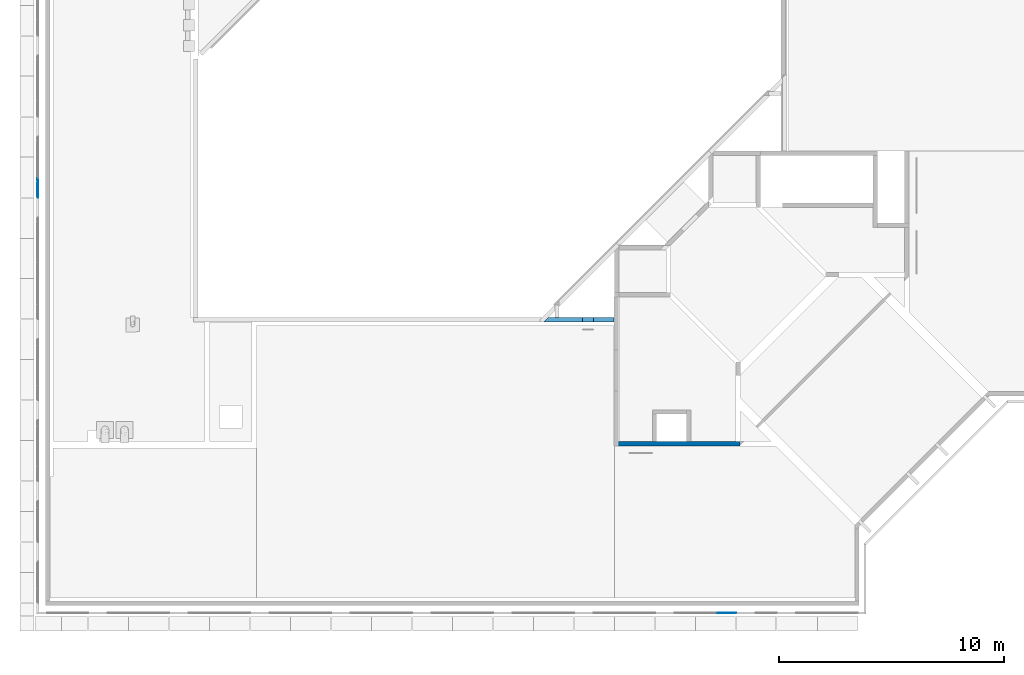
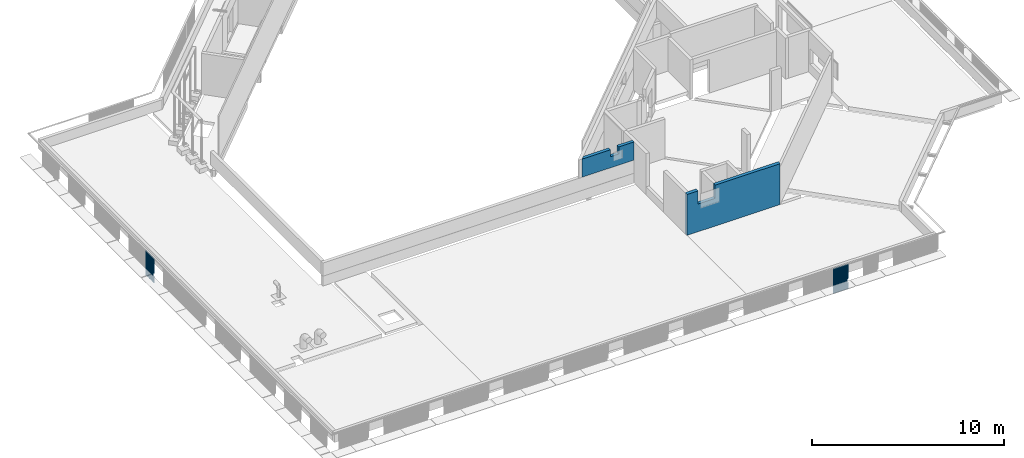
# One storey, part 23 of 37: 4 walls.
"""IFC4X3_ADD2 building model written with IfcOpenShell, lengths in millimetres."""

import ifcopenshell
import ifcopenshell.guid

model = None  # the IFC model being written
_history = None  # IfcOwnerHistory: only IFC2X3 demands one
_inside = {}  # id of a spatial element -> (the spatial element, [elements in it])
_under = {}  # id of a project, library or spatial element -> (it, [spatial elements below it])
_declared = {}  # id of a project -> (the project, [libraries it declares])
_typed = {}  # id of a type object -> (the type object, [elements of that type])
_made_of = {}  # id of a material, layer set ... -> (it, [elements and type objects made of it])


def new_model(schema):
    """Start an empty IFC model of exactly this schema.

    Asked for "IFC4X3", IfcOpenShell would pick the latest addendum, in which some entities
    have other attributes; the version numbers below select the first issue.
    IFC2X3 requires an IfcOwnerHistory on every rooted entity: one is made here for all.
    """
    global model, _history
    if schema == "IFC4X3":
        model = ifcopenshell.file(schema_version=(4, 3, 0, 0))
    else:
        model = ifcopenshell.file(schema=schema)
    _inside.clear()
    _under.clear()
    _declared.clear()
    _typed.clear()
    _made_of.clear()
    _history = None
    if model.schema == "IFC2X3":
        org = make("IfcOrganization", Name="unknown")
        user = make(
            "IfcPersonAndOrganization",
            ThePerson=make("IfcPerson", FamilyName="unknown"),
            TheOrganization=org,
        )
        app = make(
            "IfcApplication",
            ApplicationDeveloper=org,
            Version="unknown",
            ApplicationFullName="unknown",
            ApplicationIdentifier="unknown",
        )
        _history = make(
            "IfcOwnerHistory",
            OwningUser=user,
            OwningApplication=app,
            ChangeAction="ADDED",
            CreationDate=0,
        )
    return model


def make(cls, **values):
    """One entity of the class cls with the attributes given. An attribute that is None is left unset."""
    return model.create_entity(
        cls, **{name: value for name, value in values.items() if value is not None}
    )


def rooted(cls, **values):
    """An entity with a GlobalId (a new one), such as an element, a storey or a relation."""
    return make(cls, GlobalId=ifcopenshell.guid.new(), OwnerHistory=_history, **values)


def si_unit(unit_type, name, prefix=None):
    """IfcSIUnit, for example si_unit("LENGTHUNIT", "METRE", prefix="MILLI")."""
    return make("IfcSIUnit", UnitType=unit_type, Prefix=prefix, Name=name)


def assignment(units):
    """IfcUnitAssignment: the units of a project."""
    return None if units is None else make("IfcUnitAssignment", Units=units)


def point(xyz):
    """IfcCartesianPoint."""
    return None if xyz is None else make("IfcCartesianPoint", Coordinates=xyz)


def direction(xyz):
    """IfcDirection."""
    return None if xyz is None else make("IfcDirection", DirectionRatios=xyz)


def frame(location, z_axis=None, x_axis=None):
    """IfcAxis2Placement3D, a coordinate frame: its origin and axes. An axis left out is left unset."""
    return make(
        "IfcAxis2Placement3D",
        Location=point(location),
        Axis=direction(z_axis),
        RefDirection=direction(x_axis),
    )


def origin_with_axes():
    """The frame at (0, 0, 0) with the z axis (0, 0, 1) and the x axis (1, 0, 0) written out."""
    return frame((0.0, 0.0, 0.0), z_axis=(0.0, 0.0, 1.0), x_axis=(1.0, 0.0, 0.0))


def place(relative_to, where):
    """IfcLocalPlacement: puts the frame where relative to a parent placement (None: the world)."""
    return make(
        "IfcLocalPlacement", PlacementRelTo=relative_to, RelativePlacement=where
    )


def context(
    kind, dimensions, precision=None, world=None, true_north=None, identifier=None
):
    """IfcGeometricRepresentationContext, for example the 3D "Model" context."""
    return make(
        "IfcGeometricRepresentationContext",
        ContextIdentifier=identifier,
        ContextType=kind,
        CoordinateSpaceDimension=dimensions,
        Precision=precision,
        WorldCoordinateSystem=world,
        TrueNorth=true_north,
    )


def subcontext(parent, identifier, kind, view, scale=None):
    """IfcGeometricRepresentationSubContext, for example "Body" below "Model"."""
    return make(
        "IfcGeometricRepresentationSubContext",
        ContextIdentifier=identifier,
        ContextType=kind,
        ParentContext=parent,
        TargetScale=scale,
        TargetView=view,
    )


def project(units=None, contexts=None):
    """IfcProject with its units and contexts."""
    return rooted(
        "IfcProject",
        Name="project",
        RepresentationContexts=contexts,
        UnitsInContext=assignment(units),
    )


def spatial(cls, under=None, at=None, **own):
    """A site, building, storey or space (cls), placed at a placement, below another one or the project."""
    s = rooted(cls, ObjectPlacement=at, **own)
    if under is not None:
        _under.setdefault(under.id(), (under, []))[1].append(s)
    return s


def point_list(points):
    """IfcCartesianPointList2D or 3D."""
    cls = (
        "IfcCartesianPointList2D" if len(points[0]) == 2 else "IfcCartesianPointList3D"
    )
    return make(cls, CoordList=points)


def polygons(points, faces, closed=None, point_numbers=None):
    """IfcPolygonalFaceSet: a face is its outer loop, then its inner loops; points numbered from 1."""
    made = []
    for loops in faces:
        if len(loops) == 1:
            made.append(make("IfcIndexedPolygonalFace", CoordIndex=loops[0]))
        else:
            made.append(
                make(
                    "IfcIndexedPolygonalFaceWithVoids",
                    CoordIndex=loops[0],
                    InnerCoordIndices=loops[1:],
                )
            )
    return make(
        "IfcPolygonalFaceSet",
        Coordinates=point_list(points),
        Closed=closed,
        Faces=made,
        PnIndex=point_numbers,
    )


def shape(context_of_items, identifier, shape_type, items):
    """IfcShapeRepresentation: the items that make up one representation, for example the "Body"."""
    return make(
        "IfcShapeRepresentation",
        ContextOfItems=context_of_items,
        RepresentationIdentifier=identifier,
        RepresentationType=shape_type,
        Items=items,
    )


def made_of(thing, what):
    """Note that an element or type object is made of a material, layer set ...; save() writes the relation."""
    if what is not None:
        _made_of.setdefault(what.id(), (what, []))[1].append(thing)
    return thing


def element(
    cls,
    number,
    at=None,
    inside=None,
    cuts=None,
    type_object=None,
    material=None,
    context=None,
    identifier="Body",
    shape_type=None,
    held_by="IfcProductDefinitionShape",
    body=None,
    shapes=None,
    **own,
):
    """One element of the class cls, such as IfcWall. Its Tag is "e" and its number.

    at: its placement. inside: the storey or other place that contains it. cuts: it is an
    opening in that element (IfcRelVoidsElement). A single representation is given by context,
    identifier, shape_type and body (its items); several are given by shapes. held_by: the class
    of the entity that holds the representations. save() writes the other relations.
    """
    e = rooted(cls, Tag="e%d" % number, ObjectPlacement=at, **own)
    if body is not None:
        shapes = [shape(context, identifier, shape_type, body)]
    if shapes is not None:
        e.Representation = make(held_by, Representations=shapes)
    if inside is not None:
        _inside.setdefault(inside.id(), (inside, []))[1].append(e)
    if cuts is not None:
        rooted(
            "IfcRelVoidsElement", RelatingBuildingElement=cuts, RelatedOpeningElement=e
        )
    if type_object is not None:
        _typed.setdefault(type_object.id(), (type_object, []))[1].append(e)
    return made_of(e, material)


def aggregate(whole, parts):
    """IfcRelAggregates: a whole, such as a stair, and the parts it consists of."""
    return rooted("IfcRelAggregates", RelatingObject=whole, RelatedObjects=parts)


def save(model, path):
    """Write the relations noted so far, then the file.

    IfcRelAggregates (storeys below a building ...), IfcRelContainedInSpatialStructure (elements
    in a storey), IfcRelDefinesByType, IfcRelAssociatesMaterial and IfcRelDeclares: one each for
    every whole, place, type object, material and project.
    """
    for whole, parts in _under.values():
        aggregate(whole, parts)
    for where, things in _inside.values():
        rooted(
            "IfcRelContainedInSpatialStructure",
            RelatedElements=things,
            RelatingStructure=where,
        )
    for kind, things in _typed.values():
        rooted("IfcRelDefinesByType", RelatedObjects=things, RelatingType=kind)
    for what, things in _made_of.values():
        rooted("IfcRelAssociatesMaterial", RelatedObjects=things, RelatingMaterial=what)
    for by, libraries in _declared.values():
        rooted("IfcRelDeclares", RelatingContext=by, RelatedDefinitions=libraries)
    model.write(path)


model = new_model("IFC4X3_ADD2")

# Units and contexts
model_context = context("Model", 3, precision=1e-05, world=origin_with_axes(), true_north=direction((0.0, 1.0)))
body_context = subcontext(model_context, "Body", "Model", "MODEL_VIEW")
ifc_project = project(units=[si_unit("LENGTHUNIT", "METRE", prefix="MILLI"), si_unit("AREAUNIT", "SQUARE_METRE"), si_unit("VOLUMEUNIT", "CUBIC_METRE"), si_unit("PLANEANGLEUNIT", "RADIAN"), si_unit("TIMEUNIT", "SECOND"), si_unit("MASSUNIT", "GRAM")], contexts=[model_context])

# Site, building, storey
site_placement = place(None, origin_with_axes())
site = spatial("IfcSite", under=ifc_project, at=site_placement, Name="Site", CompositionType="ELEMENT")
building_placement = place(site_placement, origin_with_axes())
building = spatial("IfcBuilding", under=site, at=building_placement, Name="IFC Building Story")
storey_placement = place(building_placement, frame((0.0, 0.0, 14400.0), z_axis=(0.0, 0.0, 1.0), x_axis=(1.0, 0.0, 0.0)))
storey = spatial("IfcBuildingStorey", under=building, at=storey_placement, Name="040", Elevation=14400.0)

# Walls
wall_1_placement = place(storey_placement, frame((0.0, 0.0, -14400.0), z_axis=(0.0, 0.0, 1.0), x_axis=(1.0, 0.0, 0.0)))
element("IfcWall", 1, at=wall_1_placement, inside=storey, Name="BB_07.10_Gevelbekleding_PuntProfiel, 900 mm, console rechts_GMO:900 x 1600 mm", ObjectType="BB_07.10_Gevelbekleding_PuntProfiel, 900 mm, console rechts_GMO:900 x 1600 mm", PredefinedType="NOTDEFINED", context=body_context, shape_type="Tessellation", body=[
    polygons([(-45734.99999999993, 18090.00000000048, 14060.0), (-45733.58578643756, 18090.00000000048, 14060.0), (-45748.58578643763, 18075.00000000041, 14060.0), (-45715.0, 18041.41421356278, 14060.0), (-45715.0, 18018.5857864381, 14060.0), (-45716.0, 18019.00000000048, 14060.0), (-45716.0, 18041.0000000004, 14060.0), (-45750.0, 18075.00000000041, 14060.0), (-45734.99999999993, 18090.00000000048, 13860.0), (-45733.58578643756, 18090.00000000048, 13860.0), (-45750.0, 18075.00000000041, 13860.0), (-45716.0, 18041.0000000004, 13860.0), (-45716.0, 18019.00000000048, 13860.0), (-45715.00000000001, 18018.5857864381, 13860.0), (-45715.0, 18041.41421356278, 13860.0), (-45748.58578643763, 18075.00000000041, 13860.0), (-45716.0, 18851.00000000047, 15040.0), (-45716.0, 18829.00000000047, 15040.0), (-45750.0, 18795.00000000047, 15040.0), (-45716.0, 18761.00000000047, 15040.0), (-45716.0, 18739.00000000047, 15040.0), (-45750.0, 18705.00000000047, 15040.0), (-45716.0, 18671.00000000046, 15040.0), (-45716.0, 18649.00000000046, 15040.0), (-45750.0, 18615.00000000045, 15040.0), (-45716.0, 18581.00000000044, 15040.0), (-45716.0, 18559.00000000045, 15040.0), (-45750.0, 18525.00000000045, 15040.0), (-45716.0, 18491.00000000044, 15040.0), (-45716.0, 18469.00000000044, 15040.0), (-45750.0, 18435.00000000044, 15040.0), (-45716.0, 18401.00000000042, 15040.0), (-45716.0, 18379.00000000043, 15040.0), (-45750.0, 18345.00000000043, 15040.0), (-45716.0, 18311.00000000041, 15040.0), (-45716.0, 18289.00000000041, 15040.0), (-45750.0, 18255.00000000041, 15040.0), (-45716.0, 18221.0000000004, 15040.0), (-45716.0, 18199.00000000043, 15040.0), (-45750.0, 18165.00000000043, 15040.0), (-45716.0, 18131.00000000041, 15040.0), (-45716.0, 18109.00000000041, 15040.0), (-45750.0, 18075.00000000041, 15040.0), (-45716.0, 18041.0000000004, 15040.0), (-45716.0, 18019.00000000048, 15040.0), (-45715.00000000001, 18018.5857864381, 15040.0), (-45715.00000000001, 18041.41421356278, 15040.0), (-45748.58578643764, 18075.00000000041, 15040.0), (-45715.00000000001, 18108.58578643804, 15040.0), (-45715.00000000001, 18131.4142135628, 15040.0), (-45748.58578643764, 18165.00000000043, 15040.0), (-45715.00000000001, 18198.58578643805, 15040.0), (-45715.00000000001, 18221.41421356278, 15040.0), (-45748.58578643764, 18255.00000000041, 15040.0), (-45715.00000000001, 18288.58578643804, 15040.0), (-45715.00000000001, 18311.4142135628, 15040.0), (-45748.58578643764, 18345.00000000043, 15040.0), (-45715.00000000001, 18378.58578643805, 15040.0), (-45715.00000000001, 18401.41421356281, 15040.0), (-45748.58578643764, 18435.00000000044, 15040.0), (-45715.00000000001, 18468.58578643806, 15040.0), (-45715.00000000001, 18491.41421356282, 15040.0), (-45748.58578643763, 18525.00000000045, 15040.0), (-45715.00000000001, 18558.58578643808, 15040.0), (-45715.00000000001, 18581.41421356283, 15040.0), (-45748.58578643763, 18615.00000000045, 15040.0), (-45715.00000000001, 18648.58578643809, 15040.0), (-45715.00000000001, 18671.41421356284, 15040.0), (-45748.58578643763, 18705.00000000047, 15040.0), (-45715.0, 18738.58578643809, 15040.0), (-45715.0, 18761.41421356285, 15040.0), (-45748.58578643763, 18795.00000000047, 15040.0), (-45715.0, 18828.5857864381, 15040.0), (-45715.0, 18851.41421356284, 15040.0), (-45748.58578643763, 18885.00000000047, 15040.0), (-45715.0, 18918.5857864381, 15040.0), (-45715.0, 18941.41421356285, 15040.0), (-45716.0, 18941.00000000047, 15040.0), (-45716.0, 18919.00000000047, 15040.0), (-45750.0, 18885.00000000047, 15040.0), (-45716.0, 18851.00000000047, 13440.0), (-45750.0, 18885.00000000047, 13440.0), (-45716.0, 18919.00000000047, 13440.0), (-45716.0, 18941.00000000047, 13440.0), (-45715.0, 18941.41421356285, 13440.0), (-45715.0, 18918.5857864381, 13440.0), (-45748.58578643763, 18885.00000000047, 13440.0), (-45715.0, 18851.41421356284, 13440.0), (-45715.0, 18828.5857864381, 13440.0), (-45748.58578643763, 18795.00000000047, 13440.0), (-45715.0, 18761.41421356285, 13440.0), (-45715.0, 18738.58578643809, 13440.0), (-45748.58578643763, 18705.00000000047, 13440.0), (-45715.00000000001, 18671.41421356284, 13440.0), (-45715.00000000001, 18648.58578643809, 13440.0), (-45748.58578643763, 18615.00000000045, 13440.0), (-45715.00000000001, 18581.41421356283, 13440.0), (-45715.00000000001, 18558.58578643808, 13440.0), (-45748.58578643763, 18525.00000000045, 13440.0), (-45715.00000000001, 18491.41421356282, 13440.0), (-45715.00000000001, 18468.58578643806, 13440.0), (-45748.58578643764, 18435.00000000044, 13440.0), (-45715.00000000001, 18401.41421356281, 13440.0), (-45715.00000000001, 18378.58578643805, 13440.0), (-45748.58578643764, 18345.00000000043, 13440.0), (-45715.00000000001, 18311.4142135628, 13440.0), (-45715.00000000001, 18288.58578643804, 13440.0), (-45748.58578643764, 18255.00000000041, 13440.0), (-45715.00000000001, 18221.41421356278, 13440.0), (-45715.00000000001, 18198.58578643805, 13440.0), (-45748.58578643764, 18165.00000000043, 13440.0), (-45715.00000000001, 18131.4142135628, 13440.0), (-45715.00000000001, 18108.58578643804, 13440.0), (-45748.58578643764, 18075.00000000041, 13440.0), (-45715.00000000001, 18041.41421356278, 13440.0), (-45715.00000000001, 18018.5857864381, 13440.0), (-45716.0, 18019.00000000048, 13440.0), (-45716.0, 18041.0000000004, 13440.0), (-45750.0, 18075.00000000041, 13440.0), (-45716.0, 18109.00000000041, 13440.0), (-45716.0, 18131.00000000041, 13440.0), (-45750.0, 18165.00000000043, 13440.0), (-45716.0, 18199.00000000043, 13440.0), (-45716.0, 18221.0000000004, 13440.0), (-45750.0, 18255.00000000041, 13440.0), (-45716.0, 18289.00000000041, 13440.0), (-45716.0, 18311.00000000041, 13440.0), (-45750.0, 18345.00000000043, 13440.0), (-45716.0, 18379.00000000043, 13440.0), (-45716.0, 18401.00000000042, 13440.0), (-45750.0, 18435.00000000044, 13440.0), (-45716.0, 18469.00000000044, 13440.0), (-45716.0, 18491.00000000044, 13440.0), (-45750.0, 18525.00000000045, 13440.0), (-45716.0, 18559.00000000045, 13440.0), (-45716.0, 18581.00000000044, 13440.0), (-45750.0, 18615.00000000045, 13440.0), (-45716.0, 18649.00000000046, 13440.0), (-45716.0, 18671.00000000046, 13440.0), (-45750.0, 18705.00000000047, 13440.0), (-45716.0, 18739.00000000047, 13440.0), (-45716.0, 18761.00000000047, 13440.0), (-45750.0, 18795.00000000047, 13440.0), (-45716.0, 18829.00000000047, 13440.0)], [[[7, 8, 3]], [[7, 3, 4]], [[4, 5, 6]], [[4, 6, 7]], [[8, 1, 2]], [[8, 2, 3]], [[2, 1, 9, 10]], [[12, 13, 14]], [[12, 14, 15]], [[16, 10, 9]], [[16, 9, 11]], [[11, 12, 15]], [[11, 15, 16]], [[44, 45, 46]], [[44, 46, 47]], [[48, 49, 42]], [[48, 42, 43]], [[43, 44, 47]], [[43, 47, 48]], [[49, 50, 41]], [[49, 41, 42]], [[51, 52, 39]], [[51, 39, 40]], [[40, 41, 50]], [[40, 50, 51]], [[52, 53, 38]], [[52, 38, 39]], [[54, 55, 36]], [[54, 36, 37]], [[37, 38, 53]], [[37, 53, 54]], [[55, 56, 35]], [[55, 35, 36]], [[57, 58, 33]], [[57, 33, 34]], [[34, 35, 56]], [[34, 56, 57]], [[58, 59, 32]], [[58, 32, 33]], [[60, 61, 30]], [[60, 30, 31]], [[31, 32, 59]], [[31, 59, 60]], [[61, 62, 29]], [[61, 29, 30]], [[63, 64, 27]], [[63, 27, 28]], [[28, 29, 62]], [[28, 62, 63]], [[64, 65, 26]], [[64, 26, 27]], [[66, 67, 24]], [[66, 24, 25]], [[25, 26, 65]], [[25, 65, 66]], [[67, 68, 23]], [[67, 23, 24]], [[69, 70, 21]], [[69, 21, 22]], [[22, 23, 68]], [[22, 68, 69]], [[70, 71, 20]], [[70, 20, 21]], [[72, 73, 18]], [[72, 18, 19]], [[19, 20, 71]], [[19, 71, 72]], [[73, 74, 17]], [[73, 17, 18]], [[79, 80, 75]], [[79, 75, 76]], [[76, 77, 78]], [[76, 78, 79]], [[80, 17, 74]], [[80, 74, 75]], [[83, 84, 85]], [[83, 85, 86]], [[87, 88, 81]], [[87, 81, 82]], [[82, 83, 86]], [[82, 86, 87]], [[118, 119, 114]], [[118, 114, 115]], [[115, 116, 117]], [[115, 117, 118]], [[121, 122, 111]], [[121, 111, 112]], [[112, 113, 120]], [[112, 120, 121]], [[113, 114, 119]], [[113, 119, 120]], [[124, 125, 108]], [[124, 108, 109]], [[109, 110, 123]], [[109, 123, 124]], [[110, 111, 122]], [[110, 122, 123]], [[127, 128, 105]], [[127, 105, 106]], [[106, 107, 126]], [[106, 126, 127]], [[107, 108, 125]], [[107, 125, 126]], [[130, 131, 102]], [[130, 102, 103]], [[103, 104, 129]], [[103, 129, 130]], [[104, 105, 128]], [[104, 128, 129]], [[133, 134, 99]], [[133, 99, 100]], [[100, 101, 132]], [[100, 132, 133]], [[101, 102, 131]], [[101, 131, 132]], [[136, 137, 96]], [[136, 96, 97]], [[97, 98, 135]], [[97, 135, 136]], [[98, 99, 134]], [[98, 134, 135]], [[139, 140, 93]], [[139, 93, 94]], [[94, 95, 138]], [[94, 138, 139]], [[95, 96, 137]], [[95, 137, 138]], [[142, 143, 90]], [[142, 90, 91]], [[91, 92, 141]], [[91, 141, 142]], [[92, 93, 140]], [[92, 140, 141]], [[144, 81, 88]], [[144, 88, 89]], [[89, 90, 143]], [[89, 143, 144]], [[18, 17, 81, 144]], [[19, 18, 144, 143]], [[20, 19, 143, 142]], [[21, 20, 142, 141]], [[22, 21, 141, 140]], [[23, 22, 140, 139]], [[24, 23, 139, 138]], [[25, 24, 138, 137]], [[26, 25, 137, 136]], [[27, 26, 136, 135]], [[28, 27, 135, 134]], [[29, 28, 134, 133]], [[30, 29, 133, 132]], [[31, 30, 132, 131]], [[32, 31, 131, 130]], [[33, 32, 130, 129]], [[34, 33, 129, 128]], [[35, 34, 128, 127]], [[36, 35, 127, 126]], [[37, 36, 126, 125]], [[38, 37, 125, 124]], [[54, 53, 109, 108]], [[55, 54, 108, 107]], [[56, 55, 107, 106]], [[57, 56, 106, 105]], [[58, 57, 105, 104]], [[59, 58, 104, 103]], [[60, 59, 103, 102]], [[61, 60, 102, 101]], [[62, 61, 101, 100]], [[63, 62, 100, 99]], [[64, 63, 99, 98]], [[65, 64, 98, 97]], [[66, 65, 97, 96]], [[67, 66, 96, 95]], [[68, 67, 95, 94]], [[69, 68, 94, 93]], [[70, 69, 93, 92]], [[71, 70, 92, 91]], [[72, 71, 91, 90]], [[73, 72, 90, 89]], [[74, 73, 89, 88]], [[80, 79, 83, 82]], [[17, 80, 82, 81]], [[39, 38, 124, 123]], [[40, 39, 123, 122]], [[41, 40, 122, 121]], [[42, 41, 121, 120]], [[1, 8, 43]], [[1, 43, 42]], [[42, 9, 1]], [[42, 120, 9]], [[120, 119, 11]], [[120, 11, 9]], [[44, 43, 8, 7]], [[45, 44, 7, 6]], [[47, 46, 5, 4]], [[48, 47, 4, 3]], [[10, 16, 114]], [[10, 114, 113]], [[113, 2, 10]], [[2, 113, 49]], [[49, 48, 2]], [[48, 3, 2]], [[50, 49, 113, 112]], [[51, 50, 112, 111]], [[52, 51, 111, 110]], [[53, 52, 110, 109]], [[75, 74, 88, 87]], [[76, 75, 87, 86]], [[46, 45, 6, 5]], [[77, 76, 86, 85]], [[78, 77, 85, 84]], [[79, 78, 84, 83]], [[117, 116, 14, 13]], [[115, 114, 16, 15]], [[116, 115, 15, 14]], [[118, 117, 13, 12]], [[119, 118, 12, 11]]]),
])
wall_2_placement = place(storey_placement, frame((0.0, 0.0, -14400.0), z_axis=(0.0, 0.0, 1.0), x_axis=(1.0, 0.0, 0.0)))
element("IfcWall", 2, at=wall_2_placement, inside=storey, Name="BB_07.10_Gevelbekleding_PuntProfiel, 900 mm, console rechts_GMO:900 x 1600 mm", ObjectType="BB_07.10_Gevelbekleding_PuntProfiel, 900 mm, console rechts_GMO:900 x 1600 mm", PredefinedType="NOTDEFINED", context=body_context, shape_type="Tessellation", body=[
    polygons([(-14760.00000000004, -434.9999999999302, 14060.0), (-14760.00000000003, -433.5857864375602, 14060.0), (-14744.99999999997, -448.585786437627, 14060.0), (-14711.41421356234, -414.9999999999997, 14060.0), (-14688.58578643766, -414.9999999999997, 14060.0), (-14689.00000000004, -415.9999999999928, 14060.0), (-14710.99999999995, -415.9999999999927, 14060.0), (-14744.99999999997, -449.9999999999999, 14060.0), (-14760.00000000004, -434.9999999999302, 13860.0), (-14760.00000000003, -433.5857864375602, 13860.0), (-14744.99999999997, -449.9999999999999, 13860.0), (-14710.99999999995, -415.9999999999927, 13860.0), (-14689.00000000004, -415.9999999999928, 13860.0), (-14688.58578643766, -414.9999999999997, 13860.0), (-14711.41421356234, -414.9999999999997, 13860.0), (-14744.99999999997, -448.585786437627, 13860.0), (-15521.00000000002, -415.9999999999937, 15040.0), (-15499.00000000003, -415.9999999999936, 15040.0), (-15465.00000000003, -449.9999999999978, 15040.0), (-15431.00000000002, -415.9999999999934, 15040.0), (-15409.00000000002, -415.9999999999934, 15040.0), (-15375.00000000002, -449.9999999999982, 15040.0), (-15341.00000000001, -415.9999999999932, 15040.0), (-15319.00000000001, -415.9999999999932, 15040.0), (-15285.00000000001, -449.9999999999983, 15040.0), (-15251.0, -415.9999999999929, 15040.0), (-15229.00000000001, -415.9999999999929, 15040.0), (-15195.0, -449.9999999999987, 15040.0), (-15160.99999999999, -415.9999999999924, 15040.0), (-15138.99999999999, -415.9999999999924, 15040.0), (-15104.99999999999, -449.9999999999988, 15040.0), (-15070.99999999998, -415.9999999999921, 15040.0), (-15048.99999999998, -415.9999999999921, 15040.0), (-15014.99999999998, -449.9999999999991, 15040.0), (-14980.99999999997, -415.9999999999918, 15040.0), (-14958.99999999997, -415.9999999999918, 15040.0), (-14924.99999999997, -449.9999999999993, 15040.0), (-14890.99999999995, -415.9999999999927, 15040.0), (-14868.99999999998, -415.9999999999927, 15040.0), (-14834.99999999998, -449.9999999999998, 15040.0), (-14800.99999999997, -415.9999999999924, 15040.0), (-14778.99999999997, -415.9999999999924, 15040.0), (-14744.99999999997, -449.9999999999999, 15040.0), (-14710.99999999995, -415.9999999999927, 15040.0), (-14689.00000000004, -415.9999999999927, 15040.0), (-14688.58578643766, -414.9999999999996, 15040.0), (-14711.41421356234, -414.9999999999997, 15040.0), (-14744.99999999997, -448.585786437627, 15040.0), (-14778.5857864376, -414.9999999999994, 15040.0), (-14801.41421356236, -414.9999999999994, 15040.0), (-14834.99999999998, -448.5857864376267, 15040.0), (-14868.58578643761, -414.9999999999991, 15040.0), (-14891.41421356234, -414.9999999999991, 15040.0), (-14924.99999999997, -448.5857864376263, 15040.0), (-14958.5857864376, -414.9999999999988, 15040.0), (-14981.41421356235, -414.9999999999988, 15040.0), (-15014.99999999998, -448.5857864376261, 15040.0), (-15048.58578643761, -414.9999999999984, 15040.0), (-15071.41421356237, -414.9999999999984, 15040.0), (-15104.99999999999, -448.5857864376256, 15040.0), (-15138.58578643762, -414.9999999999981, 15040.0), (-15161.41421356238, -414.9999999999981, 15040.0), (-15195.0, -448.5857864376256, 15040.0), (-15228.58578643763, -414.999999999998, 15040.0), (-15251.41421356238, -414.999999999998, 15040.0), (-15285.00000000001, -448.5857864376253, 15040.0), (-15318.58578643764, -414.9999999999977, 15040.0), (-15341.41421356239, -414.9999999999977, 15040.0), (-15375.00000000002, -448.5857864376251, 15040.0), (-15408.58578643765, -414.9999999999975, 15040.0), (-15431.4142135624, -414.9999999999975, 15040.0), (-15465.00000000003, -448.5857864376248, 15040.0), (-15498.58578643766, -414.9999999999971, 15040.0), (-15521.4142135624, -414.9999999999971, 15040.0), (-15555.00000000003, -448.5857864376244, 15040.0), (-15588.58578643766, -414.9999999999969, 15040.0), (-15611.4142135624, -414.9999999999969, 15040.0), (-15611.00000000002, -415.9999999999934, 15040.0), (-15589.00000000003, -415.9999999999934, 15040.0), (-15555.00000000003, -449.9999999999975, 15040.0), (-15521.00000000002, -415.9999999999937, 13440.0), (-15555.00000000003, -449.9999999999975, 13440.0), (-15589.00000000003, -415.9999999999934, 13440.0), (-15611.00000000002, -415.9999999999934, 13440.0), (-15611.4142135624, -414.9999999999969, 13440.0), (-15588.58578643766, -414.9999999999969, 13440.0), (-15555.00000000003, -448.5857864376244, 13440.0), (-15521.4142135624, -414.9999999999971, 13440.0), (-15498.58578643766, -414.9999999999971, 13440.0), (-15465.00000000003, -448.5857864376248, 13440.0), (-15431.4142135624, -414.9999999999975, 13440.0), (-15408.58578643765, -414.9999999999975, 13440.0), (-15375.00000000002, -448.5857864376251, 13440.0), (-15341.41421356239, -414.9999999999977, 13440.0), (-15318.58578643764, -414.9999999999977, 13440.0), (-15285.00000000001, -448.5857864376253, 13440.0), (-15251.41421356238, -414.999999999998, 13440.0), (-15228.58578643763, -414.999999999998, 13440.0), (-15195.0, -448.5857864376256, 13440.0), (-15161.41421356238, -414.9999999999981, 13440.0), (-15138.58578643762, -414.9999999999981, 13440.0), (-15104.99999999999, -448.5857864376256, 13440.0), (-15071.41421356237, -414.9999999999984, 13440.0), (-15048.58578643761, -414.9999999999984, 13440.0), (-15014.99999999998, -448.5857864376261, 13440.0), (-14981.41421356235, -414.9999999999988, 13440.0), (-14958.5857864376, -414.9999999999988, 13440.0), (-14924.99999999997, -448.5857864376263, 13440.0), (-14891.41421356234, -414.9999999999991, 13440.0), (-14868.58578643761, -414.9999999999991, 13440.0), (-14834.99999999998, -448.5857864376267, 13440.0), (-14801.41421356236, -414.9999999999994, 13440.0), (-14778.5857864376, -414.9999999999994, 13440.0), (-14744.99999999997, -448.585786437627, 13440.0), (-14711.41421356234, -414.9999999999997, 13440.0), (-14688.58578643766, -414.9999999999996, 13440.0), (-14689.00000000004, -415.9999999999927, 13440.0), (-14710.99999999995, -415.9999999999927, 13440.0), (-14744.99999999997, -449.9999999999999, 13440.0), (-14778.99999999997, -415.9999999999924, 13440.0), (-14800.99999999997, -415.9999999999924, 13440.0), (-14834.99999999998, -449.9999999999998, 13440.0), (-14868.99999999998, -415.9999999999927, 13440.0), (-14890.99999999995, -415.9999999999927, 13440.0), (-14924.99999999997, -449.9999999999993, 13440.0), (-14958.99999999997, -415.9999999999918, 13440.0), (-14980.99999999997, -415.9999999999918, 13440.0), (-15014.99999999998, -449.9999999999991, 13440.0), (-15048.99999999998, -415.9999999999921, 13440.0), (-15070.99999999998, -415.9999999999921, 13440.0), (-15104.99999999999, -449.9999999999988, 13440.0), (-15138.99999999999, -415.9999999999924, 13440.0), (-15160.99999999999, -415.9999999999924, 13440.0), (-15195.0, -449.9999999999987, 13440.0), (-15229.00000000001, -415.9999999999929, 13440.0), (-15251.0, -415.9999999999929, 13440.0), (-15285.00000000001, -449.9999999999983, 13440.0), (-15319.00000000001, -415.9999999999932, 13440.0), (-15341.00000000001, -415.9999999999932, 13440.0), (-15375.00000000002, -449.9999999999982, 13440.0), (-15409.00000000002, -415.9999999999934, 13440.0), (-15431.00000000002, -415.9999999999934, 13440.0), (-15465.00000000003, -449.9999999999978, 13440.0), (-15499.00000000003, -415.9999999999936, 13440.0)], [[[7, 8, 3]], [[7, 3, 4]], [[4, 5, 6]], [[4, 6, 7]], [[8, 1, 2]], [[8, 2, 3]], [[2, 1, 9, 10]], [[12, 13, 14]], [[12, 14, 15]], [[16, 10, 9]], [[16, 9, 11]], [[11, 12, 15]], [[11, 15, 16]], [[44, 45, 46]], [[44, 46, 47]], [[48, 49, 42]], [[48, 42, 43]], [[43, 44, 47]], [[43, 47, 48]], [[49, 50, 41]], [[49, 41, 42]], [[51, 52, 39]], [[51, 39, 40]], [[40, 41, 50]], [[40, 50, 51]], [[52, 53, 38]], [[52, 38, 39]], [[54, 55, 36]], [[54, 36, 37]], [[37, 38, 53]], [[37, 53, 54]], [[55, 56, 35]], [[55, 35, 36]], [[57, 58, 33]], [[57, 33, 34]], [[34, 35, 56]], [[34, 56, 57]], [[58, 59, 32]], [[58, 32, 33]], [[60, 61, 30]], [[60, 30, 31]], [[31, 32, 59]], [[31, 59, 60]], [[61, 62, 29]], [[61, 29, 30]], [[63, 64, 27]], [[63, 27, 28]], [[28, 29, 62]], [[28, 62, 63]], [[64, 65, 26]], [[64, 26, 27]], [[66, 67, 24]], [[66, 24, 25]], [[25, 26, 65]], [[25, 65, 66]], [[67, 68, 23]], [[67, 23, 24]], [[69, 70, 21]], [[69, 21, 22]], [[22, 23, 68]], [[22, 68, 69]], [[70, 71, 20]], [[70, 20, 21]], [[72, 73, 18]], [[72, 18, 19]], [[19, 20, 71]], [[19, 71, 72]], [[73, 74, 17]], [[73, 17, 18]], [[79, 80, 75]], [[79, 75, 76]], [[76, 77, 78]], [[76, 78, 79]], [[80, 17, 74]], [[80, 74, 75]], [[83, 84, 85]], [[83, 85, 86]], [[87, 88, 81]], [[87, 81, 82]], [[82, 83, 86]], [[82, 86, 87]], [[118, 119, 114]], [[118, 114, 115]], [[115, 116, 117]], [[115, 117, 118]], [[121, 122, 111]], [[121, 111, 112]], [[112, 113, 120]], [[112, 120, 121]], [[113, 114, 119]], [[113, 119, 120]], [[124, 125, 108]], [[124, 108, 109]], [[109, 110, 123]], [[109, 123, 124]], [[110, 111, 122]], [[110, 122, 123]], [[127, 128, 105]], [[127, 105, 106]], [[106, 107, 126]], [[106, 126, 127]], [[107, 108, 125]], [[107, 125, 126]], [[130, 131, 102]], [[130, 102, 103]], [[103, 104, 129]], [[103, 129, 130]], [[104, 105, 128]], [[104, 128, 129]], [[133, 134, 99]], [[133, 99, 100]], [[100, 101, 132]], [[100, 132, 133]], [[101, 102, 131]], [[101, 131, 132]], [[136, 137, 96]], [[136, 96, 97]], [[97, 98, 135]], [[97, 135, 136]], [[98, 99, 134]], [[98, 134, 135]], [[139, 140, 93]], [[139, 93, 94]], [[94, 95, 138]], [[94, 138, 139]], [[95, 96, 137]], [[95, 137, 138]], [[142, 143, 90]], [[142, 90, 91]], [[91, 92, 141]], [[91, 141, 142]], [[92, 93, 140]], [[92, 140, 141]], [[144, 81, 88]], [[144, 88, 89]], [[89, 90, 143]], [[89, 143, 144]], [[18, 17, 81, 144]], [[19, 18, 144, 143]], [[20, 19, 143, 142]], [[21, 20, 142, 141]], [[22, 21, 141, 140]], [[23, 22, 140, 139]], [[24, 23, 139, 138]], [[25, 24, 138, 137]], [[26, 25, 137, 136]], [[27, 26, 136, 135]], [[28, 27, 135, 134]], [[29, 28, 134, 133]], [[30, 29, 133, 132]], [[31, 30, 132, 131]], [[32, 31, 131, 130]], [[33, 32, 130, 129]], [[34, 33, 129, 128]], [[35, 34, 128, 127]], [[36, 35, 127, 126]], [[37, 36, 126, 125]], [[38, 37, 125, 124]], [[54, 53, 109, 108]], [[55, 54, 108, 107]], [[56, 55, 107, 106]], [[57, 56, 106, 105]], [[58, 57, 105, 104]], [[59, 58, 104, 103]], [[60, 59, 103, 102]], [[61, 60, 102, 101]], [[62, 61, 101, 100]], [[63, 62, 100, 99]], [[64, 63, 99, 98]], [[65, 64, 98, 97]], [[66, 65, 97, 96]], [[67, 66, 96, 95]], [[68, 67, 95, 94]], [[69, 68, 94, 93]], [[70, 69, 93, 92]], [[71, 70, 92, 91]], [[72, 71, 91, 90]], [[73, 72, 90, 89]], [[74, 73, 89, 88]], [[80, 79, 83, 82]], [[17, 80, 82, 81]], [[39, 38, 124, 123]], [[40, 39, 123, 122]], [[41, 40, 122, 121]], [[42, 41, 121, 120]], [[1, 8, 43]], [[1, 43, 42]], [[42, 9, 1]], [[42, 120, 9]], [[120, 119, 11]], [[120, 11, 9]], [[44, 43, 8, 7]], [[45, 44, 7, 6]], [[47, 46, 5, 4]], [[48, 47, 4, 3]], [[10, 16, 114]], [[10, 114, 113]], [[113, 2, 10]], [[2, 113, 49]], [[49, 48, 2]], [[48, 3, 2]], [[50, 49, 113, 112]], [[51, 50, 112, 111]], [[52, 51, 111, 110]], [[53, 52, 110, 109]], [[75, 74, 88, 87]], [[76, 75, 87, 86]], [[46, 45, 6, 5]], [[77, 76, 86, 85]], [[78, 77, 85, 84]], [[79, 78, 84, 83]], [[117, 116, 14, 13]], [[115, 114, 16, 15]], [[116, 115, 15, 14]], [[118, 117, 13, 12]], [[119, 118, 12, 11]]]),
])
wall_3_placement = place(storey_placement, frame((0.0, 0.0, -14400.0), z_axis=(0.0, 0.0, 1.0), x_axis=(1.0, 0.0, 0.0)))
element("IfcWall", 3, at=wall_3_placement, inside=storey, Name="Basic Wall:BB_XX_Wand uit beton, 200 mm", ObjectType="Basic Wall:BB_XX_Wand uit beton, 200 mm", PredefinedType="SOLIDWALL", context=body_context, shape_type="Tessellation", body=[
    polygons([(-14510.0, 7200.0, 14200.0), (-20099.99999999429, 7200.0, 14200.0), (-20099.99999999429, 7200.0, 16800.0), (-19444.99999999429, 7200.0, 16800.0), (-19444.99999999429, 7200.0, 15960.0), (-18414.99999999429, 7199.999999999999, 15960.0), (-18414.99999999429, 7199.999999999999, 16800.0), (-14510.0, 7200.0, 16800.0), (-20099.99999999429, 7000.0, 14200.0), (-14510.0, 7000.0, 14200.0), (-14510.0, 7000.0, 16800.0), (-18414.99999999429, 6999.999999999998, 16800.0), (-18414.99999999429, 6999.999999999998, 15960.0), (-19444.99999999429, 7000.0, 15960.0), (-19444.99999999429, 7000.0, 16800.0), (-20099.99999999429, 7000.0, 16800.0)], [[[6, 7, 8]], [[8, 1, 2]], [[8, 2, 6]], [[2, 5, 6]], [[2, 3, 5]], [[3, 4, 5]], [[14, 15, 16]], [[14, 16, 9]], [[9, 13, 14]], [[13, 9, 10]], [[13, 10, 11]], [[11, 12, 13]], [[2, 1, 10, 9]], [[3, 2, 9, 16]], [[3, 16, 15, 4]], [[1, 8, 11, 10]], [[5, 14, 13, 6]], [[6, 13, 12, 7]], [[14, 5, 4, 15]], [[11, 8, 7, 12]]]),
])
wall_4_placement = place(storey_placement, frame((0.0, 0.0, -14400.0), z_axis=(0.0, 0.0, 1.0), x_axis=(1.0, 0.0, 0.0)))
element("IfcWall", 4, at=wall_4_placement, inside=storey, Name="Basic Wall:BB_03.09.24#03_Wand uit metselwerk, 190 mm", ObjectType="Basic Wall:BB_03.09.24#03_Wand uit metselwerk, 190 mm", PredefinedType="SOLIDWALL", context=body_context, shape_type="Tessellation", body=[
    polygons([(-23040.94776062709, 12695.0, 15650.0), (-23040.94776062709, 12695.0, 16800.0), (-21514.01794363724, 12695.0, 16800.0), (-21514.01794363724, 12695.0, 16350.0), (-21024.01794363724, 12695.0, 16350.0), (-21024.01794363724, 12695.0, 16800.0), (-20110.0, 12695.0, 16800.0), (-20110.0, 12695.0, 15650.0), (-23230.94776062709, 12505.0, 16800.0), (-23230.94776062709, 12505.0, 15650.0), (-20110.0, 12505.0, 15650.0), (-20110.0, 12505.0, 16800.0), (-21024.01794363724, 12505.0, 16800.0), (-21024.01794363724, 12505.0, 16350.0), (-21514.01794363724, 12505.0, 16350.0), (-21514.01794363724, 12505.0, 16800.0)], [[[5, 6, 7]], [[5, 7, 8]], [[8, 4, 5]], [[4, 8, 1]], [[4, 1, 2]], [[2, 3, 4]], [[15, 16, 9]], [[9, 10, 11]], [[9, 11, 15]], [[11, 14, 15]], [[11, 12, 13]], [[11, 13, 14]], [[10, 1, 8, 11]], [[2, 9, 16, 3]], [[2, 1, 10, 9]], [[8, 7, 12, 11]], [[4, 15, 14, 5]], [[5, 14, 13, 6]], [[15, 4, 3, 16]], [[6, 13, 12, 7]]]),
])

save(model, "model.ifc")
